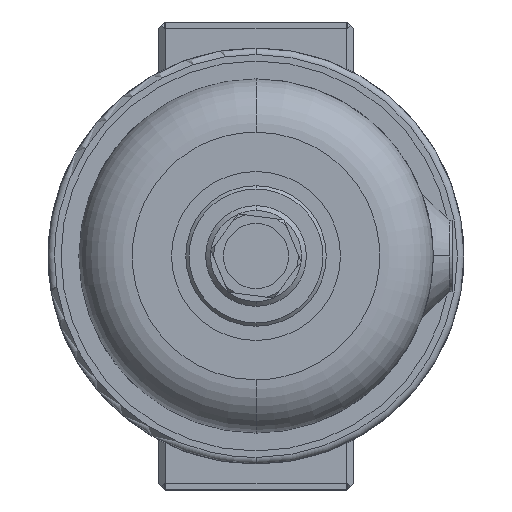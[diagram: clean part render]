
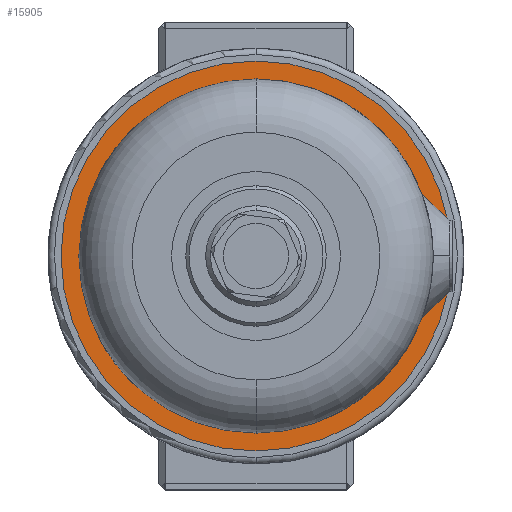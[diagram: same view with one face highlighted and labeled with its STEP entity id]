
A CAD part, front view. The second image highlights one B-rep face of the part: STEP entity #15905.
In plain terms, the highlighted planar face has unit normal (0, -1, 0).
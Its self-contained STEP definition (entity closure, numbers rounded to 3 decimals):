
#40 = CARTESIAN_POINT ( 'NONE',  ( 0., 5.7, 0. ) ) ;
#983 = AXIS2_PLACEMENT_3D ( 'NONE', #10333, #7156, #19538 ) ;
#1221 = CIRCLE ( 'NONE', #16526, 30. ) ;
#1641 = DIRECTION ( 'NONE',  ( 0., 0., -1. ) ) ;
#1657 = DIRECTION ( 'NONE',  ( 0., 0., 1. ) ) ;
#2261 = AXIS2_PLACEMENT_3D ( 'NONE', #15390, #16806, #1641 ) ;
#2765 = EDGE_CURVE ( 'NONE', #5661, #19251, #4244, .T. ) ;
#3763 = CIRCLE ( 'NONE', #983, 10. ) ;
#3823 = ORIENTED_EDGE ( 'NONE', *, *, #4973, .T. ) ;
#4193 = ORIENTED_EDGE ( 'NONE', *, *, #15176, .T. ) ;
#4194 = FACE_BOUND ( 'NONE', #19503, .T. ) ;
#4244 = CIRCLE ( 'NONE', #8268, 30. ) ;
#4288 = CARTESIAN_POINT ( 'NONE',  ( 0., 5.7, 0. ) ) ;
#4641 = CARTESIAN_POINT ( 'NONE',  ( 0., 5.7, 10. ) ) ;
#4741 = DIRECTION ( 'NONE',  ( 0., 0., 1. ) ) ;
#4874 = CARTESIAN_POINT ( 'NONE',  ( 0., 5.7, 0. ) ) ;
#4973 = EDGE_CURVE ( 'NONE', #6173, #11175, #3763, .T. ) ;
#5661 = VERTEX_POINT ( 'NONE', #15265 ) ;
#6173 = VERTEX_POINT ( 'NONE', #4641 ) ;
#6879 = ORIENTED_EDGE ( 'NONE', *, *, #16854, .T. ) ;
#7063 = CARTESIAN_POINT ( 'NONE',  ( 0., 5.7, -10. ) ) ;
#7156 = DIRECTION ( 'NONE',  ( 0., 1., 0. ) ) ;
#8268 = AXIS2_PLACEMENT_3D ( 'NONE', #40, #12050, #1657 ) ;
#10333 = CARTESIAN_POINT ( 'NONE',  ( 0., 5.7, 0. ) ) ;
#10374 = FACE_OUTER_BOUND ( 'NONE', #13232, .T. ) ;
#11175 = VERTEX_POINT ( 'NONE', #7063 ) ;
#12050 = DIRECTION ( 'NONE',  ( 0., -1., 0. ) ) ;
#12302 = PLANE ( 'NONE',  #2261 ) ;
#13149 = ORIENTED_EDGE ( 'NONE', *, *, #2765, .T. ) ;
#13232 = EDGE_LOOP ( 'NONE', ( #13149, #4193 ) ) ;
#13863 = AXIS2_PLACEMENT_3D ( 'NONE', #4288, #16500, #18036 ) ;
#15176 = EDGE_CURVE ( 'NONE', #19251, #5661, #1221, .T. ) ;
#15265 = CARTESIAN_POINT ( 'NONE',  ( 0., 5.7, 30. ) ) ;
#15390 = CARTESIAN_POINT ( 'NONE',  ( -20., 5.7, 0. ) ) ;
#15905 = ADVANCED_FACE ( 'NONE', ( #4194, #10374 ), #12302, .T. ) ;
#16500 = DIRECTION ( 'NONE',  ( 0., 1., 0. ) ) ;
#16526 = AXIS2_PLACEMENT_3D ( 'NONE', #4874, #17011, #4741 ) ;
#16806 = DIRECTION ( 'NONE',  ( 0., -1., 0. ) ) ;
#16854 = EDGE_CURVE ( 'NONE', #11175, #6173, #17607, .T. ) ;
#17011 = DIRECTION ( 'NONE',  ( 0., -1., 0. ) ) ;
#17372 = CARTESIAN_POINT ( 'NONE',  ( 0., 5.7, -30. ) ) ;
#17607 = CIRCLE ( 'NONE', #13863, 10. ) ;
#18036 = DIRECTION ( 'NONE',  ( 0., 0., 1. ) ) ;
#19251 = VERTEX_POINT ( 'NONE', #17372 ) ;
#19503 = EDGE_LOOP ( 'NONE', ( #3823, #6879 ) ) ;
#19538 = DIRECTION ( 'NONE',  ( 0., 0., 1. ) ) ;
